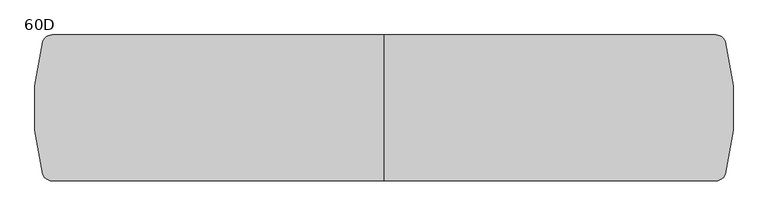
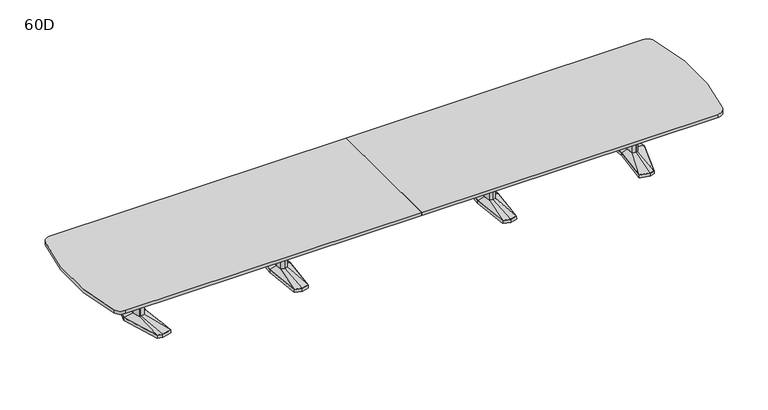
"""IFC4 building model written with IfcOpenShell, lengths in millimetres: furniture geometry, Coalesse_AM_Table_Conference_ETable2_SoftRadiused_24ft_AluminiumBase : 60D."""

from ifc_helpers import new_model, si_unit, point, frame, frame_2d, origin, place, context, project, spatial, polyline, circle_curve, trimmed, segment, composite_curve, outline, extrude, faceted_brep, source, transform, mapped, element, save
from ifc_brep_helpers import plane_surface, spline_surface, advanced_brep


def furniture_60d_1dc072a0(model_context):
    return source(origin(), model_context, "Body", "SolidModel", [
        faceted_brep([(2852.8994335, 455.5848221, 38.1), (2743.3218777, 426.2263816, 38.1), (2784.4851217, 0.0, 38.1), (2743.3218777, -426.2263816, 38.1), (2852.8994335, -455.5848221, 38.1), (2909.0257896, -440.5478297, 38.1), (3046.3371769, 0.0, 38.1), (2909.0257896, 440.5478297, 38.1), (2852.8994254, 457.2283104, 3.175), (2910.2811972, 441.8549756, 3.175), (3048.0, 0.0, 3.175), (2910.2811972, -441.8549756, 3.175), (2852.8994254, -457.2283104, 3.175), (2741.6125, -427.4118891, 3.175), (2782.8902356, 0.0, 3.175), (2741.6125, 427.4118891, 3.175), (2856.488865, 428.3273875, 3.175), (2751.4405728, 402.1057253, 3.175), (2759.559268, 377.985069, 3.175), (2860.0782966, 401.0699529, 3.175), (2910.6379225, 387.524361, 3.175), (2909.8318561, 414.0360954, 3.175), (2856.488865, -428.3273875, 3.175), (2909.8318561, -414.0360954, 3.175), (2910.6379225, -387.524361, 3.175), (2860.0782966, -401.0699529, 3.175), (2759.559268, -377.985069, 3.175), (2751.4405728, -402.1057253, 3.175), (2983.0841121, 0.0, 3.175), (2950.8147111, 120.4193755, 3.175), (2902.1674722, 133.471665, 3.175), (2822.2868026, 119.4176561, 3.175), (2811.1555966, 0.0, 3.175), (2822.2868026, -119.4176561, 3.175), (2902.1674722, -133.471665, 3.175), (2950.8147111, -120.4193755, 3.175), (2856.488865, 428.3273875, 0.0), (2909.8318561, 414.0360954, 0.0), (2910.6379225, 387.524361, 0.0), (2860.0782966, 401.0699529, 0.0), (2759.559268, 377.985069, 0.0), (2751.4405728, 402.1057253, 0.0), (2856.488865, -428.3273875, 0.0), (2751.4405728, -402.1057253, 0.0), (2759.559268, -377.985069, 0.0), (2860.0782966, -401.0699529, 0.0), (2910.6379225, -387.524361, 0.0), (2909.8318561, -414.0360954, 0.0), (2983.0841121, 0.0, 0.0), (2950.8147111, -120.4193755, 0.0), (2902.1674722, -133.471665, 0.0), (2822.2868026, -119.4176561, 0.0), (2811.1555966, 0.0, 0.0), (2822.2868026, 119.4176561, 0.0), (2902.1674722, 133.471665, 0.0), (2950.8147111, 120.4193755, 0.0)], [[[0, 1, 2, 3, 4, 5, 6, 7]], [[8, 9, 10, 11, 12, 13, 14, 15], [16, 17, 18, 19, 20, 21], [22, 23, 24, 25, 26, 27], [28, 29, 30, 31, 32, 33, 34, 35]], [[7, 9, 8, 0]], [[6, 10, 9, 7]], [[5, 11, 10, 6]], [[4, 12, 11, 5]], [[3, 13, 12, 4]], [[2, 14, 13, 3]], [[1, 15, 14, 2]], [[0, 8, 15, 1]], [[36, 37, 38, 39, 40, 41]], [[42, 43, 44, 45, 46, 47]], [[48, 49, 50, 51, 52, 53, 54, 55]], [[36, 16, 21, 37]], [[37, 21, 20, 38]], [[38, 20, 19, 39]], [[39, 19, 18, 40]], [[40, 18, 17, 41]], [[41, 17, 16, 36]], [[42, 22, 27, 43]], [[43, 27, 26, 44]], [[44, 26, 25, 45]], [[45, 25, 24, 46]], [[46, 24, 23, 47]], [[47, 23, 22, 42]], [[48, 28, 35, 49]], [[49, 35, 34, 50]], [[50, 34, 33, 51]], [[51, 33, 32, 52]], [[52, 32, 31, 53]], [[53, 31, 30, 54]], [[54, 30, 29, 55]], [[55, 29, 28, 48]]]),
        faceted_brep([(2943.6398336, 0.0, 698.5), (2919.7046046, 89.3188359, 698.5), (2902.8512484, 93.8406728, 698.5), (2900.4514011, 94.4845635, 698.5), (2857.523896, 86.9320037, 698.5), (2849.4207556, 0.0, 698.5), (2857.523896, -86.9320037, 698.5), (2900.4514011, -94.4845635, 698.5), (2902.8512484, -93.8406728, 698.5), (2919.7046046, -89.3188359, 698.5), (2943.6398336, 0.0, 63.5), (2919.7046046, -89.3188359, 63.5), (2902.8512484, -93.8406728, 63.5), (2900.4514011, -94.4845635, 63.5), (2857.523896, -86.9320037, 63.5), (2849.4207556, 0.0, 63.5), (2857.523896, 86.9320037, 63.5), (2900.4514011, 94.4845635, 63.5), (2902.8512484, 93.8406728, 63.5), (2919.7046046, 89.3188359, 63.5)], [[[0, 1, 2, 3, 4, 5, 6, 7, 8, 9]], [[10, 11, 12, 13, 14, 15, 16, 17, 18, 19]], [[9, 11, 10, 0]], [[8, 12, 11, 9]], [[7, 13, 12, 8]], [[6, 14, 13, 7]], [[5, 15, 14, 6]], [[4, 16, 15, 5]], [[3, 17, 16, 4]], [[2, 18, 17, 3]], [[1, 19, 18, 2]], [[0, 10, 19, 1]]]),
        advanced_brep(
        [(2900.4514011, 94.4845635, 63.5), (2857.523896, 86.9320037, 63.5), (2849.4207556, 0.0, 63.5), (2857.523896, -86.9320037, 63.5), (2900.4514011, -94.4845635, 63.5), (2919.7046046, -89.3188359, 63.5), (2943.6398336, 0.0, 63.5), (2919.7046046, 89.3188359, 63.5), (2852.8994335, 455.5848221, 38.1), (2909.0257896, 440.5478297, 38.1), (3046.3371769, 0.0, 38.1), (2909.0257896, -440.5478297, 38.1), (2852.8994335, -455.5848221, 38.1), (2743.3218777, -426.2263816, 38.1), (2784.4851217, 0.0, 38.1), (2743.3218777, 426.2263816, 38.1)],
        [
            (0, 1),
            (1, 2),
            (2, 3),
            (3, 4),
            (4, 5),
            (5, 6),
            (6, 7),
            (7, 0),
            (8, 9),
            (9, 10),
            (10, 11),
            (11, 12),
            (12, 13),
            (13, 14),
            (14, 15),
            (15, 8),
            (8, 0),
            (7, 9),
            (6, 10),
            (5, 11),
            (4, 12),
            (3, 13),
            (2, 14),
            (1, 15),
        ],
        [
            plane_surface(frame((2893.5525491, 0.0, 63.5), z_axis=(0.0, 0.0, 1.0), x_axis=(-0.25884244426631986, -0.9659195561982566, 0.0))),
            plane_surface(frame((2855.1645625, 0.0, 38.1), z_axis=(0.0, 0.0, -1.0), x_axis=(-0.25884244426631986, -0.9659195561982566, 0.0))),
            spline_surface(1, 1, [[(2852.8994335, 455.5848221, 38.1), (2909.0257896, 440.5478297, 38.1)], [(2900.4514011, 94.4845635, 63.5), (2919.7046046, 89.3188359, 63.5)]], [2, 2], [2, 2], [0.0, 1.0], [0.0, 1.0]),
            spline_surface(1, 1, [[(2909.0257896, 440.5478297, 38.1), (3046.3371769, 0.0, 38.1)], [(2919.7046046, 89.3188359, 63.5), (2943.6398336, 0.0, 63.5)]], [2, 2], [2, 2], [0.0, 1.0], [0.0, 1.0]),
            spline_surface(1, 1, [[(3046.3371769, 0.0, 38.1), (2909.0257896, -440.5478297, 38.1)], [(2943.6398336, 0.0, 63.5), (2919.7046046, -89.3188359, 63.5)]], [2, 2], [2, 2], [0.0, 1.0], [0.0, 1.0]),
            spline_surface(1, 1, [[(2909.0257896, -440.5478297, 38.1), (2852.8994335, -455.5848221, 38.1)], [(2919.7046046, -89.3188359, 63.5), (2900.4514011, -94.4845635, 63.5)]], [2, 2], [2, 2], [0.0, 1.0], [0.0, 1.0]),
            spline_surface(1, 1, [[(2852.8994335, -455.5848221, 38.1), (2743.3218777, -426.2263816, 38.1)], [(2900.4514011, -94.4845635, 63.5), (2857.523896, -86.9320037, 63.5)]], [2, 2], [2, 2], [0.0, 1.0], [0.0, 1.0]),
            spline_surface(1, 1, [[(2743.3218777, -426.2263816, 38.1), (2784.4851217, 0.0, 38.1)], [(2857.523896, -86.9320037, 63.5), (2849.4207556, 0.0, 63.5)]], [2, 2], [2, 2], [0.0, 1.0], [0.0, 1.0]),
            spline_surface(1, 1, [[(2784.4851217, 0.0, 38.1), (2743.3218777, 426.2263816, 38.1)], [(2849.4207556, 0.0, 63.5), (2857.523896, 86.9320037, 63.5)]], [2, 2], [2, 2], [0.0, 1.0], [0.0, 1.0]),
            spline_surface(1, 1, [[(2743.3218777, 426.2263816, 38.1), (2852.8994335, 455.5848221, 38.1)], [(2857.523896, 86.9320037, 63.5), (2900.4514011, 94.4845635, 63.5)]], [2, 2], [2, 2], [0.0, 1.0], [0.0, 1.0]),
        ],
        [
            (0, [[1, 2, 3, 4, 5, 6, 7, 8]]),
            (1, [[9, 10, 11, 12, 13, 14, 15, 16]]),
            (2, [[17, -8, 18, -9]]),
            (3, [[-18, -7, 19, -10]]),
            (4, [[-19, -6, 20, -11]]),
            (5, [[-20, -5, 21, -12]]),
            (6, [[-21, -4, 22, -13]]),
            (7, [[-22, -3, 23, -14]]),
            (8, [[-23, -2, 24, -15]]),
            (9, [[-24, -1, -17, -16]]),
        ],
    ),
        faceted_brep([(-2852.8994335, 455.5848221, 38.1), (-2909.0257896, 440.5478297, 38.1), (-3046.3371769, 0.0, 38.1), (-2909.0257896, -440.5478297, 38.1), (-2852.8994335, -455.5848221, 38.1), (-2743.3218777, -426.2263816, 38.1), (-2784.4851217, 0.0, 38.1), (-2743.3218777, 426.2263816, 38.1), (-2852.8994254, 457.2283104, 3.175), (-2741.6125, 427.4118891, 3.175), (-2782.8902356, 0.0, 3.175), (-2741.6125, -427.4118891, 3.175), (-2852.8994254, -457.2283104, 3.175), (-2910.2811972, -441.8549756, 3.175), (-3048.0, 0.0, 3.175), (-2910.2811972, 441.8549756, 3.175), (-2856.488865, 428.3273875, 3.175), (-2909.8318561, 414.0360954, 3.175), (-2910.6379225, 387.524361, 3.175), (-2860.0782966, 401.0699529, 3.175), (-2759.559268, 377.985069, 3.175), (-2751.4405728, 402.1057253, 3.175), (-2856.488865, -428.3273875, 3.175), (-2751.4405728, -402.1057253, 3.175), (-2759.559268, -377.985069, 3.175), (-2860.0782966, -401.0699529, 3.175), (-2910.6379225, -387.524361, 3.175), (-2909.8318561, -414.0360954, 3.175), (-2983.0841121, 0.0, 3.175), (-2950.8147111, -120.4193755, 3.175), (-2902.1674722, -133.471665, 3.175), (-2822.2868026, -119.4176561, 3.175), (-2811.1555966, 0.0, 3.175), (-2822.2868026, 119.4176561, 3.175), (-2902.1674722, 133.471665, 3.175), (-2950.8147111, 120.4193755, 3.175), (-2856.488865, 428.3273875, 0.0), (-2751.4405728, 402.1057253, 0.0), (-2759.559268, 377.985069, 0.0), (-2860.0782966, 401.0699529, 0.0), (-2910.6379225, 387.524361, 0.0), (-2909.8318561, 414.0360954, 0.0), (-2856.488865, -428.3273875, 0.0), (-2909.8318561, -414.0360954, 0.0), (-2910.6379225, -387.524361, 0.0), (-2860.0782966, -401.0699529, 0.0), (-2759.559268, -377.985069, 0.0), (-2751.4405728, -402.1057253, 0.0), (-2983.0841121, 0.0, 0.0), (-2950.8147111, 120.4193755, 0.0), (-2902.1674722, 133.471665, 0.0), (-2822.2868026, 119.4176561, 0.0), (-2811.1555966, 0.0, 0.0), (-2822.2868026, -119.4176561, 0.0), (-2902.1674722, -133.471665, 0.0), (-2950.8147111, -120.4193755, 0.0)], [[[0, 1, 2, 3, 4, 5, 6, 7]], [[8, 9, 10, 11, 12, 13, 14, 15], [16, 17, 18, 19, 20, 21], [22, 23, 24, 25, 26, 27], [28, 29, 30, 31, 32, 33, 34, 35]], [[1, 0, 8, 15]], [[2, 1, 15, 14]], [[3, 2, 14, 13]], [[4, 3, 13, 12]], [[5, 4, 12, 11]], [[6, 5, 11, 10]], [[7, 6, 10, 9]], [[0, 7, 9, 8]], [[36, 37, 38, 39, 40, 41]], [[42, 43, 44, 45, 46, 47]], [[48, 49, 50, 51, 52, 53, 54, 55]], [[36, 41, 17, 16]], [[41, 40, 18, 17]], [[40, 39, 19, 18]], [[39, 38, 20, 19]], [[38, 37, 21, 20]], [[37, 36, 16, 21]], [[42, 47, 23, 22]], [[47, 46, 24, 23]], [[46, 45, 25, 24]], [[45, 44, 26, 25]], [[44, 43, 27, 26]], [[43, 42, 22, 27]], [[48, 55, 29, 28]], [[55, 54, 30, 29]], [[54, 53, 31, 30]], [[53, 52, 32, 31]], [[52, 51, 33, 32]], [[51, 50, 34, 33]], [[50, 49, 35, 34]], [[49, 48, 28, 35]]]),
        faceted_brep([(-2943.6398336, 0.0, 698.5), (-2919.7046046, -89.3188359, 698.5), (-2902.8512484, -93.8406728, 698.5), (-2900.4514011, -94.4845635, 698.5), (-2857.523896, -86.9320037, 698.5), (-2849.4207556, 0.0, 698.5), (-2857.523896, 86.9320037, 698.5), (-2900.4514011, 94.4845635, 698.5), (-2902.8512484, 93.8406728, 698.5), (-2919.7046046, 89.3188359, 698.5), (-2943.6398336, 0.0, 63.5), (-2919.7046046, 89.3188359, 63.5), (-2902.8512484, 93.8406728, 63.5), (-2900.4514011, 94.4845635, 63.5), (-2857.523896, 86.9320037, 63.5), (-2849.4207556, 0.0, 63.5), (-2857.523896, -86.9320037, 63.5), (-2900.4514011, -94.4845635, 63.5), (-2902.8512484, -93.8406728, 63.5), (-2919.7046046, -89.3188359, 63.5)], [[[0, 1, 2, 3, 4, 5, 6, 7, 8, 9]], [[10, 11, 12, 13, 14, 15, 16, 17, 18, 19]], [[1, 0, 10, 19]], [[2, 1, 19, 18]], [[3, 2, 18, 17]], [[4, 3, 17, 16]], [[5, 4, 16, 15]], [[6, 5, 15, 14]], [[7, 6, 14, 13]], [[8, 7, 13, 12]], [[9, 8, 12, 11]], [[0, 9, 11, 10]]]),
        advanced_brep(
        [(-2900.4514011, 94.4845635, 63.5), (-2919.7046046, 89.3188359, 63.5), (-2943.6398336, 0.0, 63.5), (-2919.7046046, -89.3188359, 63.5), (-2900.4514011, -94.4845635, 63.5), (-2857.523896, -86.9320037, 63.5), (-2849.4207556, 0.0, 63.5), (-2857.523896, 86.9320037, 63.5), (-2852.8994335, 455.5848221, 38.1), (-2743.3218777, 426.2263816, 38.1), (-2784.4851217, 0.0, 38.1), (-2743.3218777, -426.2263816, 38.1), (-2852.8994335, -455.5848221, 38.1), (-2909.0257896, -440.5478297, 38.1), (-3046.3371769, 0.0, 38.1), (-2909.0257896, 440.5478297, 38.1)],
        [
            (0, 1),
            (1, 2),
            (2, 3),
            (3, 4),
            (4, 5),
            (5, 6),
            (6, 7),
            (7, 0),
            (8, 9),
            (9, 10),
            (10, 11),
            (11, 12),
            (12, 13),
            (13, 14),
            (14, 15),
            (15, 8),
            (15, 1),
            (0, 8),
            (14, 2),
            (13, 3),
            (12, 4),
            (11, 5),
            (10, 6),
            (9, 7),
        ],
        [
            plane_surface(frame((-2893.5525491, 0.0, 63.5), z_axis=(0.0, 0.0, 1.0), x_axis=(0.25884244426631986, -0.9659195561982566, 0.0))),
            plane_surface(frame((-2855.1645625, 0.0, 38.1), z_axis=(0.0, 0.0, -1.0), x_axis=(0.25884244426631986, -0.9659195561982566, 0.0))),
            spline_surface(1, 1, [[(-2852.8994335, 455.5848221, 38.1), (-2900.4514011, 94.4845635, 63.5)], [(-2909.0257896, 440.5478297, 38.1), (-2919.7046046, 89.3188359, 63.5)]], [2, 2], [2, 2], [0.0, 1.0], [0.0, 1.0]),
            spline_surface(1, 1, [[(-2909.0257896, 440.5478297, 38.1), (-2919.7046046, 89.3188359, 63.5)], [(-3046.3371769, 0.0, 38.1), (-2943.6398336, 0.0, 63.5)]], [2, 2], [2, 2], [0.0, 1.0], [0.0, 1.0]),
            spline_surface(1, 1, [[(-3046.3371769, 0.0, 38.1), (-2943.6398336, 0.0, 63.5)], [(-2909.0257896, -440.5478297, 38.1), (-2919.7046046, -89.3188359, 63.5)]], [2, 2], [2, 2], [0.0, 1.0], [0.0, 1.0]),
            spline_surface(1, 1, [[(-2909.0257896, -440.5478297, 38.1), (-2919.7046046, -89.3188359, 63.5)], [(-2852.8994335, -455.5848221, 38.1), (-2900.4514011, -94.4845635, 63.5)]], [2, 2], [2, 2], [0.0, 1.0], [0.0, 1.0]),
            spline_surface(1, 1, [[(-2852.8994335, -455.5848221, 38.1), (-2900.4514011, -94.4845635, 63.5)], [(-2743.3218777, -426.2263816, 38.1), (-2857.523896, -86.9320037, 63.5)]], [2, 2], [2, 2], [0.0, 1.0], [0.0, 1.0]),
            spline_surface(1, 1, [[(-2743.3218777, -426.2263816, 38.1), (-2857.523896, -86.9320037, 63.5)], [(-2784.4851217, 0.0, 38.1), (-2849.4207556, 0.0, 63.5)]], [2, 2], [2, 2], [0.0, 1.0], [0.0, 1.0]),
            spline_surface(1, 1, [[(-2784.4851217, 0.0, 38.1), (-2849.4207556, 0.0, 63.5)], [(-2743.3218777, 426.2263816, 38.1), (-2857.523896, 86.9320037, 63.5)]], [2, 2], [2, 2], [0.0, 1.0], [0.0, 1.0]),
            spline_surface(1, 1, [[(-2743.3218777, 426.2263816, 38.1), (-2857.523896, 86.9320037, 63.5)], [(-2852.8994335, 455.5848221, 38.1), (-2900.4514011, 94.4845635, 63.5)]], [2, 2], [2, 2], [0.0, 1.0], [0.0, 1.0]),
        ],
        [
            (0, [[1, 2, 3, 4, 5, 6, 7, 8]]),
            (1, [[9, 10, 11, 12, 13, 14, 15, 16]]),
            (2, [[-16, 17, -1, 18]]),
            (3, [[-15, 19, -2, -17]]),
            (4, [[-14, 20, -3, -19]]),
            (5, [[-13, 21, -4, -20]]),
            (6, [[-12, 22, -5, -21]]),
            (7, [[-11, 23, -6, -22]]),
            (8, [[-10, 24, -7, -23]]),
            (9, [[-9, -18, -8, -24]]),
        ],
    ),
        faceted_brep([(1137.9666209, -433.8053819, 38.1), (1219.2, -455.556576, 38.1), (1300.4333791, -433.8053819, 38.1), (1338.2564774, 0.0, 38.1), (1300.4333791, 433.8053819, 38.1), (1219.2, 455.556576, 38.1), (1137.9666209, 433.8053819, 38.1), (1100.1435226, 0.0, 38.1), (1136.4817205, -435.0512063, 3.175), (1098.55, 0.0, 3.175), (1136.4817205, 435.0512063, 3.175), (1219.2, 457.2, 3.175), (1301.9182795, 435.0512063, 3.175), (1339.85, 0.0, 3.175), (1301.9182795, -435.0512063, 3.175), (1219.2, -457.2, 3.175), (1219.2, 429.2617927, 3.175), (1141.2323194, 408.3850278, 3.175), (1144.4980179, 382.9646737, 3.175), (1219.2, 402.9670094, 3.175), (1293.9019821, 382.9646737, 3.175), (1297.1676806, 408.3850278, 3.175), (1219.2, -429.2617927, 3.175), (1297.1676806, -408.3850278, 3.175), (1293.9019821, -382.9646737, 3.175), (1219.2, -402.9670094, 3.175), (1144.4980179, -382.9646737, 3.175), (1141.2323194, -408.3850278, 3.175), (1147.3425738, 114.6326257, 3.175), (1136.6573924, 0.0, 3.175), (1147.3425738, -114.6326257, 3.175), (1219.2, -133.8761372, 3.175), (1291.0574262, -114.6326257, 3.175), (1301.7426076, 0.0, 3.175), (1291.0574262, 114.6326257, 3.175), (1219.2, 133.8761372, 3.175), (1219.2, 429.2617927, 0.0), (1297.1676806, 408.3850278, 0.0), (1293.9019821, 382.9646737, 0.0), (1219.2, 402.9670094, 0.0), (1144.4980179, 382.9646737, 0.0), (1141.2323194, 408.3850278, 0.0), (1219.2, -429.2617927, 0.0), (1141.2323194, -408.3850278, 0.0), (1144.4980179, -382.9646737, 0.0), (1219.2, -402.9670094, 0.0), (1293.9019821, -382.9646737, 0.0), (1297.1676806, -408.3850278, 0.0), (1147.3425738, 114.6326257, 0.0), (1219.2, 133.8761372, 0.0), (1291.0574262, 114.6326257, 0.0), (1301.7426076, 0.0, 0.0), (1291.0574262, -114.6326257, 0.0), (1219.2, -133.8761372, 0.0), (1147.3425738, -114.6326257, 0.0), (1136.6573924, 0.0, 0.0)], [[[0, 1, 2, 3, 4, 5, 6, 7]], [[8, 9, 10, 11, 12, 13, 14, 15], [16, 17, 18, 19, 20, 21], [22, 23, 24, 25, 26, 27], [28, 29, 30, 31, 32, 33, 34, 35]], [[1, 0, 8, 15]], [[2, 1, 15, 14]], [[3, 2, 14, 13]], [[4, 3, 13, 12]], [[5, 4, 12, 11]], [[6, 5, 11, 10]], [[7, 6, 10, 9]], [[0, 7, 9, 8]], [[36, 37, 38, 39, 40, 41]], [[42, 43, 44, 45, 46, 47]], [[48, 49, 50, 51, 52, 53, 54, 55]], [[36, 41, 17, 16]], [[41, 40, 18, 17]], [[40, 39, 19, 18]], [[39, 38, 20, 19]], [[38, 37, 21, 20]], [[37, 36, 16, 21]], [[42, 47, 23, 22]], [[47, 46, 24, 23]], [[46, 45, 25, 24]], [[45, 44, 26, 25]], [[44, 43, 27, 26]], [[43, 42, 22, 27]], [[48, 55, 29, 28]], [[55, 54, 30, 29]], [[54, 53, 31, 30]], [[53, 52, 32, 31]], [[52, 51, 33, 32]], [[51, 50, 34, 33]], [[50, 49, 35, 34]], [[49, 48, 28, 35]]]),
        faceted_brep([(1182.8167166, 84.6900825, 698.5), (1174.9225513, 0.0, 698.5), (1182.8167166, -84.6900825, 698.5), (1219.2, -94.4335728, 698.5), (1255.5832834, -84.6900825, 698.5), (1263.4774487, 0.0, 698.5), (1255.5832834, 84.6900825, 698.5), (1219.2, 94.4335728, 698.5), (1182.8167166, 84.6900825, 63.5), (1219.2, 94.4335728, 63.5), (1255.5832834, 84.6900825, 63.5), (1263.4774487, 0.0, 63.5), (1255.5832834, -84.6900825, 63.5), (1219.2, -94.4335728, 63.5), (1182.8167166, -84.6900825, 63.5), (1174.9225513, 0.0, 63.5)], [[[0, 1, 2, 3, 4, 5, 6, 7]], [[8, 9, 10, 11, 12, 13, 14, 15]], [[1, 0, 8, 15]], [[2, 1, 15, 14]], [[3, 2, 14, 13]], [[4, 3, 13, 12]], [[5, 4, 12, 11]], [[6, 5, 11, 10]], [[7, 6, 10, 9]], [[0, 7, 9, 8]]]),
        advanced_brep(
        [(1182.8167166, 84.6900825, 63.5), (1174.9225513, 0.0, 63.5), (1182.8167166, -84.6900825, 63.5), (1219.2, -94.4335728, 63.5), (1255.5832834, -84.6900825, 63.5), (1263.4774487, 0.0, 63.5), (1255.5832834, 84.6900825, 63.5), (1219.2, 94.4335728, 63.5), (1137.9666209, 433.8053819, 38.1), (1219.2, 455.556576, 38.1), (1300.4333791, 433.8053819, 38.1), (1338.2564774, 0.0, 38.1), (1300.4333791, -433.8053819, 38.1), (1219.2, -455.556576, 38.1), (1137.9666209, -433.8053819, 38.1), (1100.1435226, 0.0, 38.1)],
        [
            (0, 1),
            (1, 2),
            (2, 3),
            (3, 4),
            (4, 5),
            (5, 6),
            (6, 7),
            (7, 0),
            (8, 9),
            (9, 10),
            (10, 11),
            (11, 12),
            (12, 13),
            (13, 14),
            (14, 15),
            (15, 8),
            (15, 1),
            (0, 8),
            (14, 2),
            (13, 3),
            (12, 4),
            (11, 5),
            (10, 6),
            (9, 7),
        ],
        [
            plane_surface(frame((1219.2, 0.0, 63.5), z_axis=(0.0, 0.0, 1.0000000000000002), x_axis=(-0.9659615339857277, -0.25868574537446, 0.0))),
            plane_surface(frame((1219.2, 0.0, 38.1), z_axis=(0.0, 0.0, -1.0000000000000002), x_axis=(-0.9659615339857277, -0.25868574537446, 0.0))),
            spline_surface(1, 1, [[(1137.9666209, 433.8053819, 38.1), (1182.8167166, 84.6900825, 63.5)], [(1100.1435226, 0.0, 38.1), (1174.9225513, 0.0, 63.5)]], [2, 2], [2, 2], [0.0, 1.0], [0.0, 1.0]),
            spline_surface(1, 1, [[(1100.1435226, 0.0, 38.1), (1174.9225513, 0.0, 63.5)], [(1137.9666209, -433.8053819, 38.1), (1182.8167166, -84.6900825, 63.5)]], [2, 2], [2, 2], [0.0, 1.0], [0.0, 1.0]),
            spline_surface(1, 1, [[(1137.9666209, -433.8053819, 38.1), (1182.8167166, -84.6900825, 63.5)], [(1219.2, -455.556576, 38.1), (1219.2, -94.4335728, 63.5)]], [2, 2], [2, 2], [0.0, 1.0], [0.0, 1.0]),
            spline_surface(1, 1, [[(1219.2, -455.556576, 38.1), (1219.2, -94.4335728, 63.5)], [(1300.4333791, -433.8053819, 38.1), (1255.5832834, -84.6900825, 63.5)]], [2, 2], [2, 2], [0.0, 1.0], [0.0, 1.0]),
            spline_surface(1, 1, [[(1300.4333791, -433.8053819, 38.1), (1255.5832834, -84.6900825, 63.5)], [(1338.2564774, 0.0, 38.1), (1263.4774487, 0.0, 63.5)]], [2, 2], [2, 2], [0.0, 1.0], [0.0, 1.0]),
            spline_surface(1, 1, [[(1338.2564774, 0.0, 38.1), (1263.4774487, 0.0, 63.5)], [(1300.4333791, 433.8053819, 38.1), (1255.5832834, 84.6900825, 63.5)]], [2, 2], [2, 2], [0.0, 1.0], [0.0, 1.0]),
            spline_surface(1, 1, [[(1300.4333791, 433.8053819, 38.1), (1255.5832834, 84.6900825, 63.5)], [(1219.2, 455.556576, 38.1), (1219.2, 94.4335728, 63.5)]], [2, 2], [2, 2], [0.0, 1.0], [0.0, 1.0]),
            spline_surface(1, 1, [[(1219.2, 455.556576, 38.1), (1219.2, 94.4335728, 63.5)], [(1137.9666209, 433.8053819, 38.1), (1182.8167166, 84.6900825, 63.5)]], [2, 2], [2, 2], [0.0, 1.0], [0.0, 1.0]),
        ],
        [
            (0, [[1, 2, 3, 4, 5, 6, 7, 8]]),
            (1, [[9, 10, 11, 12, 13, 14, 15, 16]]),
            (2, [[-16, 17, -1, 18]]),
            (3, [[-15, 19, -2, -17]]),
            (4, [[-14, 20, -3, -19]]),
            (5, [[-13, 21, -4, -20]]),
            (6, [[-12, 22, -5, -21]]),
            (7, [[-11, 23, -6, -22]]),
            (8, [[-10, 24, -7, -23]]),
            (9, [[-9, -18, -8, -24]]),
        ],
    ),
        faceted_brep([(-1300.4333791, -433.8053819, 38.1), (-1219.2, -455.556576, 38.1), (-1137.9666209, -433.8053819, 38.1), (-1100.1435226, 0.0, 38.1), (-1137.9666209, 433.8053819, 38.1), (-1219.2, 455.556576, 38.1), (-1300.4333791, 433.8053819, 38.1), (-1338.2564774, 0.0, 38.1), (-1301.9182795, -435.0512063, 3.175), (-1339.85, 0.0, 3.175), (-1301.9182795, 435.0512063, 3.175), (-1219.2, 457.2, 3.175), (-1136.4817205, 435.0512063, 3.175), (-1098.55, 0.0, 3.175), (-1136.4817205, -435.0512063, 3.175), (-1219.2, -457.2, 3.175), (-1219.2, 429.2617927, 3.175), (-1297.1676806, 408.3850278, 3.175), (-1293.9019821, 382.9646737, 3.175), (-1219.2, 402.9670094, 3.175), (-1144.4980179, 382.9646737, 3.175), (-1141.2323194, 408.3850278, 3.175), (-1219.2, -429.2617927, 3.175), (-1141.2323194, -408.3850278, 3.175), (-1144.4980179, -382.9646737, 3.175), (-1219.2, -402.9670094, 3.175), (-1293.9019821, -382.9646737, 3.175), (-1297.1676806, -408.3850278, 3.175), (-1291.0574262, 114.6326257, 3.175), (-1301.7426076, 0.0, 3.175), (-1291.0574262, -114.6326257, 3.175), (-1219.2, -133.8761372, 3.175), (-1147.3425738, -114.6326257, 3.175), (-1136.6573924, 0.0, 3.175), (-1147.3425738, 114.6326257, 3.175), (-1219.2, 133.8761372, 3.175), (-1219.2, 429.2617927, 0.0), (-1141.2323194, 408.3850278, 0.0), (-1144.4980179, 382.9646737, 0.0), (-1219.2, 402.9670094, 0.0), (-1293.9019821, 382.9646737, 0.0), (-1297.1676806, 408.3850278, 0.0), (-1219.2, -429.2617927, 0.0), (-1297.1676806, -408.3850278, 0.0), (-1293.9019821, -382.9646737, 0.0), (-1219.2, -402.9670094, 0.0), (-1144.4980179, -382.9646737, 0.0), (-1141.2323194, -408.3850278, 0.0), (-1291.0574262, 114.6326257, 0.0), (-1219.2, 133.8761372, 0.0), (-1147.3425738, 114.6326257, 0.0), (-1136.6573924, 0.0, 0.0), (-1147.3425738, -114.6326257, 0.0), (-1219.2, -133.8761372, 0.0), (-1291.0574262, -114.6326257, 0.0), (-1301.7426076, 0.0, 0.0)], [[[0, 1, 2, 3, 4, 5, 6, 7]], [[8, 9, 10, 11, 12, 13, 14, 15], [16, 17, 18, 19, 20, 21], [22, 23, 24, 25, 26, 27], [28, 29, 30, 31, 32, 33, 34, 35]], [[1, 0, 8, 15]], [[2, 1, 15, 14]], [[3, 2, 14, 13]], [[4, 3, 13, 12]], [[5, 4, 12, 11]], [[6, 5, 11, 10]], [[7, 6, 10, 9]], [[0, 7, 9, 8]], [[36, 37, 38, 39, 40, 41]], [[42, 43, 44, 45, 46, 47]], [[48, 49, 50, 51, 52, 53, 54, 55]], [[36, 41, 17, 16]], [[41, 40, 18, 17]], [[40, 39, 19, 18]], [[39, 38, 20, 19]], [[38, 37, 21, 20]], [[37, 36, 16, 21]], [[42, 47, 23, 22]], [[47, 46, 24, 23]], [[46, 45, 25, 24]], [[45, 44, 26, 25]], [[44, 43, 27, 26]], [[43, 42, 22, 27]], [[48, 55, 29, 28]], [[55, 54, 30, 29]], [[54, 53, 31, 30]], [[53, 52, 32, 31]], [[52, 51, 33, 32]], [[51, 50, 34, 33]], [[50, 49, 35, 34]], [[49, 48, 28, 35]]]),
        faceted_brep([(-1255.5832834, 84.6900825, 698.5), (-1263.4774487, 0.0, 698.5), (-1255.5832834, -84.6900825, 698.5), (-1219.2, -94.4335728, 698.5), (-1182.8167166, -84.6900825, 698.5), (-1174.9225513, 0.0, 698.5), (-1182.8167166, 84.6900825, 698.5), (-1219.2, 94.4335728, 698.5), (-1255.5832834, 84.6900825, 63.5), (-1219.2, 94.4335728, 63.5), (-1182.8167166, 84.6900825, 63.5), (-1174.9225513, 0.0, 63.5), (-1182.8167166, -84.6900825, 63.5), (-1219.2, -94.4335728, 63.5), (-1255.5832834, -84.6900825, 63.5), (-1263.4774487, 0.0, 63.5)], [[[0, 1, 2, 3, 4, 5, 6, 7]], [[8, 9, 10, 11, 12, 13, 14, 15]], [[1, 0, 8, 15]], [[2, 1, 15, 14]], [[3, 2, 14, 13]], [[4, 3, 13, 12]], [[5, 4, 12, 11]], [[6, 5, 11, 10]], [[7, 6, 10, 9]], [[0, 7, 9, 8]]]),
        advanced_brep(
        [(-1255.5832834, 84.6900825, 63.5), (-1263.4774487, 0.0, 63.5), (-1255.5832834, -84.6900825, 63.5), (-1219.2, -94.4335728, 63.5), (-1182.8167166, -84.6900825, 63.5), (-1174.9225513, 0.0, 63.5), (-1182.8167166, 84.6900825, 63.5), (-1219.2, 94.4335728, 63.5), (-1300.4333791, 433.8053819, 38.1), (-1219.2, 455.556576, 38.1), (-1137.9666209, 433.8053819, 38.1), (-1100.1435226, 0.0, 38.1), (-1137.9666209, -433.8053819, 38.1), (-1219.2, -455.556576, 38.1), (-1300.4333791, -433.8053819, 38.1), (-1338.2564774, 0.0, 38.1)],
        [
            (0, 1),
            (1, 2),
            (2, 3),
            (3, 4),
            (4, 5),
            (5, 6),
            (6, 7),
            (7, 0),
            (8, 9),
            (9, 10),
            (10, 11),
            (11, 12),
            (12, 13),
            (13, 14),
            (14, 15),
            (15, 8),
            (15, 1),
            (0, 8),
            (14, 2),
            (13, 3),
            (12, 4),
            (11, 5),
            (10, 6),
            (9, 7),
        ],
        [
            plane_surface(frame((-1219.2, 0.0, 63.5), z_axis=(0.0, 0.0, 1.0000000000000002), x_axis=(-0.9659615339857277, -0.25868574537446, 0.0))),
            plane_surface(frame((-1219.2, 0.0, 38.1), z_axis=(0.0, 0.0, -1.0000000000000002), x_axis=(-0.9659615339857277, -0.25868574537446, 0.0))),
            spline_surface(1, 1, [[(-1300.4333791, 433.8053819, 38.1), (-1255.5832834, 84.6900825, 63.5)], [(-1338.2564774, 0.0, 38.1), (-1263.4774487, 0.0, 63.5)]], [2, 2], [2, 2], [0.0, 1.0], [0.0, 1.0]),
            spline_surface(1, 1, [[(-1338.2564774, 0.0, 38.1), (-1263.4774487, 0.0, 63.5)], [(-1300.4333791, -433.8053819, 38.1), (-1255.5832834, -84.6900825, 63.5)]], [2, 2], [2, 2], [0.0, 1.0], [0.0, 1.0]),
            spline_surface(1, 1, [[(-1300.4333791, -433.8053819, 38.1), (-1255.5832834, -84.6900825, 63.5)], [(-1219.2, -455.556576, 38.1), (-1219.2, -94.4335728, 63.5)]], [2, 2], [2, 2], [0.0, 1.0], [0.0, 1.0]),
            spline_surface(1, 1, [[(-1219.2, -455.556576, 38.1), (-1219.2, -94.4335728, 63.5)], [(-1137.9666209, -433.8053819, 38.1), (-1182.8167166, -84.6900825, 63.5)]], [2, 2], [2, 2], [0.0, 1.0], [0.0, 1.0]),
            spline_surface(1, 1, [[(-1137.9666209, -433.8053819, 38.1), (-1182.8167166, -84.6900825, 63.5)], [(-1100.1435226, 0.0, 38.1), (-1174.9225513, 0.0, 63.5)]], [2, 2], [2, 2], [0.0, 1.0], [0.0, 1.0]),
            spline_surface(1, 1, [[(-1100.1435226, 0.0, 38.1), (-1174.9225513, 0.0, 63.5)], [(-1137.9666209, 433.8053819, 38.1), (-1182.8167166, 84.6900825, 63.5)]], [2, 2], [2, 2], [0.0, 1.0], [0.0, 1.0]),
            spline_surface(1, 1, [[(-1137.9666209, 433.8053819, 38.1), (-1182.8167166, 84.6900825, 63.5)], [(-1219.2, 455.556576, 38.1), (-1219.2, 94.4335728, 63.5)]], [2, 2], [2, 2], [0.0, 1.0], [0.0, 1.0]),
            spline_surface(1, 1, [[(-1219.2, 455.556576, 38.1), (-1219.2, 94.4335728, 63.5)], [(-1300.4333791, 433.8053819, 38.1), (-1255.5832834, 84.6900825, 63.5)]], [2, 2], [2, 2], [0.0, 1.0], [0.0, 1.0]),
        ],
        [
            (0, [[1, 2, 3, 4, 5, 6, 7, 8]]),
            (1, [[9, 10, 11, 12, 13, 14, 15, 16]]),
            (2, [[-16, 17, -1, 18]]),
            (3, [[-15, 19, -2, -17]]),
            (4, [[-14, 20, -3, -19]]),
            (5, [[-13, 21, -4, -20]]),
            (6, [[-12, 22, -5, -21]]),
            (7, [[-11, 23, -6, -22]]),
            (8, [[-10, 24, -7, -23]]),
            (9, [[-9, -18, -8, -24]]),
        ],
    ),
        extrude(outline(polyline([(96.8375, 698.5), (103.1875, 698.5), (103.1875, 476.25), (-103.1875, 476.25), (-103.1875, 698.5), (-96.8375, 698.5), (-96.8375, 482.6), (96.8375, 482.6), (96.8375, 698.5)])), frame((1263.4774487, 0.0, 0.0), z_axis=(1.0, 0.0, 0.0), x_axis=(0.0, 1.0, 0.0)), (0.0, 0.0, 1.0), 1586.0850513),
        extrude(outline(polyline([(96.8375, 698.5), (103.1875, 698.5), (103.1875, 476.25), (-103.1875, 476.25), (-103.1875, 698.5), (-96.8375, 698.5), (-96.8375, 482.6), (96.8375, 482.6), (96.8375, 698.5)])), frame((-1174.9225513, 0.0, 0.0), z_axis=(1.0, 0.0, 0.0), x_axis=(0.0, 1.0, 0.0)), (0.0, 0.0, 1.0), 2349.8451026),
        extrude(outline(composite_curve([segment(polyline([(0.0, 44.2739767), (0.0, 762.0), (3468.4557965, 762.0)]), True, "CONTINUOUS"), segment(trimmed(circle_curve(frame_2d((3468.4557965, 660.4)), 101.6), [point((3468.4557965, 762.0))], [point((3564.2453259, 694.2662966))], False, "CARTESIAN"), True, "CONTINUOUS"), segment(polyline([(3564.2453259, 694.2662966), (3564.9956256, 692.1441026)]), True, "CONTINUOUS"), segment(trimmed(circle_curve(frame_2d((1024.6842649, 0.0)), 2632.9157351), [point((3564.9956256, 692.1441026))], [point((3564.9956256, -692.1441026))], False, "CARTESIAN"), True, "CONTINUOUS"), segment(polyline([(3564.9956256, -692.1441026), (3564.2453259, -694.2662966)]), True, "CONTINUOUS"), segment(trimmed(circle_curve(frame_2d((3468.4557965, -660.4)), 101.6), [point((3564.2453259, -694.2662966))], [point((3468.4557965, -762.0))], False, "CARTESIAN"), True, "CONTINUOUS"), segment(polyline([(3468.4557965, -762.0), (0.0, -762.0), (0.0, 44.2739767)]), True, "CONTINUOUS")], self_intersect=False)), frame((0.0, 0.0, 698.5), z_axis=(0.0, 0.0, 1.0), x_axis=(1.0, 0.0, 0.0)), (0.0, 0.0, 1.0), 38.1),
        extrude(outline(composite_curve([segment(polyline([(0.0, 44.2739767), (0.0, -762.0), (-3468.4557965, -762.0)]), True, "CONTINUOUS"), segment(trimmed(circle_curve(frame_2d((-3468.4557965, -660.4)), 101.6), [point((-3468.4557965, -762.0))], [point((-3564.2453259, -694.2662966))], False, "CARTESIAN"), True, "CONTINUOUS"), segment(polyline([(-3564.2453259, -694.2662966), (-3564.9956256, -692.1441026)]), True, "CONTINUOUS"), segment(trimmed(circle_curve(frame_2d((-1024.6842649, 0.0)), 2632.9157351), [point((-3564.9956256, -692.1441026))], [point((-3564.9956256, 692.1441026))], False, "CARTESIAN"), True, "CONTINUOUS"), segment(polyline([(-3564.9956256, 692.1441026), (-3564.2453259, 694.2662966)]), True, "CONTINUOUS"), segment(trimmed(circle_curve(frame_2d((-3468.4557965, 660.4)), 101.6), [point((-3564.2453259, 694.2662966))], [point((-3468.4557965, 762.0))], False, "CARTESIAN"), True, "CONTINUOUS"), segment(polyline([(-3468.4557965, 762.0), (0.0, 762.0), (0.0, 44.2739767)]), True, "CONTINUOUS")], self_intersect=False)), frame((0.0, 0.0, 698.5), z_axis=(0.0, 0.0, 1.0), x_axis=(1.0, 0.0, 0.0)), (0.0, 0.0, 1.0), 38.1),
        extrude(outline(polyline([(96.8375, 698.5), (103.1875, 698.5), (103.1875, 476.25), (-103.1875, 476.25), (-103.1875, 698.5), (-96.8375, 698.5), (-96.8375, 482.6), (96.8375, 482.6), (96.8375, 698.5)])), frame((-2849.5625, 0.0, 0.0), z_axis=(1.0, 0.0, 0.0), x_axis=(0.0, 1.0, 0.0)), (0.0, 0.0, 1.0), 1586.0850513),
    ])


if __name__ == "__main__":
    model = new_model("IFC4")
    model_context = context("Model", 3, world=origin())
    ifc_project = project(units=[si_unit("LENGTHUNIT", "METRE", prefix="MILLI")], contexts=[model_context])
    site = spatial("IfcSite", under=ifc_project)
    building = spatial("IfcBuilding", under=site)
    placement = place(None, origin())
    furniture_60d_shape = furniture_60d_1dc072a0(model_context)
    element("IfcFurniture", 1, ObjectType="Coalesse_AM_Table_Conference_ETable2_SoftRadiused_24ft_AluminiumBase : 60D", at=placement, inside=building, context=model_context, shape_type="MappedRepresentation", body=[
        mapped(furniture_60d_shape, transform((0.0, 0.0, 0.0), x_axis=(1.0, 0.0, 0.0), y_axis=(0.0, 1.0, 0.0), z_axis=(0.0, 0.0, 1.0))),
    ])
    save(model, "model.ifc")
